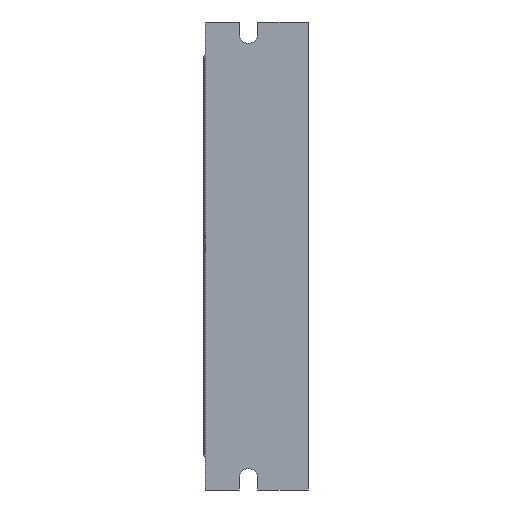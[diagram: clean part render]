
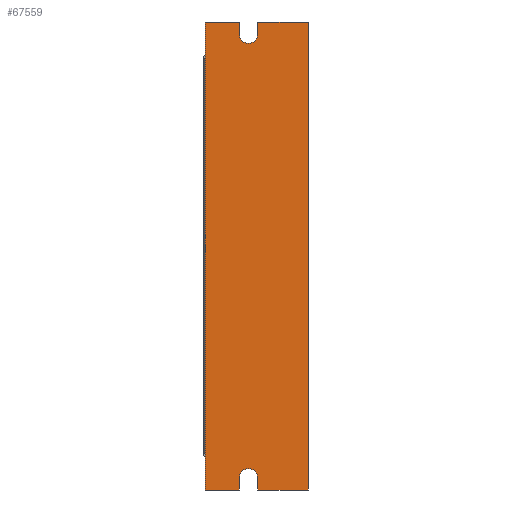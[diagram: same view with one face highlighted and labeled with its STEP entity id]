
A CAD part, left-side view. The second image highlights one B-rep face of the part: STEP entity #67559.
In plain terms, the highlighted planar face has unit normal (-1, 0, 0).
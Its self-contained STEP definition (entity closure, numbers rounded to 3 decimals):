
#552 = EDGE_CURVE ( 'NONE', #102072, #75754, #96332, .T. ) ;
#2598 = LINE ( 'NONE', #38038, #51276 ) ;
#2942 = LINE ( 'NONE', #60996, #54679 ) ;
#5365 = DIRECTION ( 'NONE',  ( 0., 0., 1. ) ) ;
#5782 = CARTESIAN_POINT ( 'NONE',  ( 0., 17., 0. ) ) ;
#5799 = EDGE_CURVE ( 'NONE', #47897, #63221, #89925, .T. ) ;
#5852 = DIRECTION ( 'NONE',  ( 0., 0., -1. ) ) ;
#7980 = EDGE_CURVE ( 'NONE', #23426, #12030, #50017, .T. ) ;
#10335 = EDGE_LOOP ( 'NONE', ( #21268, #115646, #69696, #108118, #11371, #83966, #46160, #44073, #37546, #66220, #97630, #31538, #44299 ) ) ;
#10584 = CARTESIAN_POINT ( 'NONE',  ( 0., 17., -57.5 ) ) ;
#11371 = ORIENTED_EDGE ( 'NONE', *, *, #41722, .T. ) ;
#11429 = VERTEX_POINT ( 'NONE', #35611 ) ;
#11620 = CARTESIAN_POINT ( 'NONE',  ( 0., 25.4, 57.5 ) ) ;
#11754 = AXIS2_PLACEMENT_3D ( 'NONE', #86851, #19199, #87277 ) ;
#12030 = VERTEX_POINT ( 'NONE', #24419 ) ;
#13313 = CARTESIAN_POINT ( 'NONE',  ( 0., 17., -54.5 ) ) ;
#16229 = CARTESIAN_POINT ( 'NONE',  ( 0., 12.5, -57.5 ) ) ;
#19199 = DIRECTION ( 'NONE',  ( 1., 0., 0. ) ) ;
#21004 = VECTOR ( 'NONE', #5365, 1000. ) ;
#21266 = CARTESIAN_POINT ( 'NONE',  ( 0., 12.7, 57.5 ) ) ;
#21268 = ORIENTED_EDGE ( 'NONE', *, *, #552, .F. ) ;
#23426 = VERTEX_POINT ( 'NONE', #76174 ) ;
#24419 = CARTESIAN_POINT ( 'NONE',  ( 0., 12.5, 57.5 ) ) ;
#27631 = CARTESIAN_POINT ( 'NONE',  ( 0., 12.5, 0. ) ) ;
#31538 = ORIENTED_EDGE ( 'NONE', *, *, #102807, .F. ) ;
#34302 = AXIS2_PLACEMENT_3D ( 'NONE', #115428, #57171, #125172 ) ;
#35611 = CARTESIAN_POINT ( 'NONE',  ( 0., 25.4, -57.5 ) ) ;
#35735 = LINE ( 'NONE', #27631, #84463 ) ;
#37546 = ORIENTED_EDGE ( 'NONE', *, *, #5799, .F. ) ;
#38038 = CARTESIAN_POINT ( 'NONE',  ( 0., 0., 0. ) ) ;
#38960 = CARTESIAN_POINT ( 'NONE',  ( 0., 14.75, -54.5 ) ) ;
#40240 = EDGE_CURVE ( 'NONE', #79120, #97003, #2942, .T. ) ;
#41722 = EDGE_CURVE ( 'NONE', #79120, #23426, #2598, .T. ) ;
#42411 = VERTEX_POINT ( 'NONE', #11620 ) ;
#44073 = ORIENTED_EDGE ( 'NONE', *, *, #53250, .F. ) ;
#44299 = ORIENTED_EDGE ( 'NONE', *, *, #82746, .F. ) ;
#46160 = ORIENTED_EDGE ( 'NONE', *, *, #97127, .F. ) ;
#47897 = VERTEX_POINT ( 'NONE', #70575 ) ;
#48001 = DIRECTION ( 'NONE',  ( 0., 0., 1. ) ) ;
#48774 = DIRECTION ( 'NONE',  ( 0., 0., -1. ) ) ;
#50017 = LINE ( 'NONE', #51672, #121557 ) ;
#51276 = VECTOR ( 'NONE', #115907, 1000. ) ;
#51672 = CARTESIAN_POINT ( 'NONE',  ( 0., 6.25, 57.5 ) ) ;
#53250 = EDGE_CURVE ( 'NONE', #63221, #104551, #99394, .T. ) ;
#53848 = CARTESIAN_POINT ( 'NONE',  ( 0., 12.5, 0. ) ) ;
#54249 = DIRECTION ( 'NONE',  ( 0., 0., -1. ) ) ;
#54679 = VECTOR ( 'NONE', #99715, 1000. ) ;
#55011 = CARTESIAN_POINT ( 'NONE',  ( 0., 14.75, 54.5 ) ) ;
#57171 = DIRECTION ( 'NONE',  ( -1., 0., 0. ) ) ;
#60996 = CARTESIAN_POINT ( 'NONE',  ( 0., 6.25, -57.5 ) ) ;
#61722 = VERTEX_POINT ( 'NONE', #119321 ) ;
#63221 = VERTEX_POINT ( 'NONE', #120203 ) ;
#64789 = DIRECTION ( 'NONE',  ( 0., 0., -1. ) ) ;
#65354 = VECTOR ( 'NONE', #48001, 1000. ) ;
#66220 = ORIENTED_EDGE ( 'NONE', *, *, #78492, .F. ) ;
#66671 = LINE ( 'NONE', #5782, #89485 ) ;
#67559 = ADVANCED_FACE ( 'NONE', ( #85344 ), #77513, .F. ) ;
#68450 = LINE ( 'NONE', #106287, #65354 ) ;
#69696 = ORIENTED_EDGE ( 'NONE', *, *, #78472, .F. ) ;
#70359 = VECTOR ( 'NONE', #88207, 1000. ) ;
#70575 = CARTESIAN_POINT ( 'NONE',  ( 0., 17., 54.5 ) ) ;
#75703 = CARTESIAN_POINT ( 'NONE',  ( 0., 12.5, 54.5 ) ) ;
#75754 = VERTEX_POINT ( 'NONE', #10584 ) ;
#76174 = CARTESIAN_POINT ( 'NONE',  ( 0., 0., 57.5 ) ) ;
#76236 = CARTESIAN_POINT ( 'NONE',  ( 0., 17., 0. ) ) ;
#77513 = PLANE ( 'NONE',  #11754 ) ;
#78472 = EDGE_CURVE ( 'NONE', #97003, #61722, #124466, .T. ) ;
#78492 = EDGE_CURVE ( 'NONE', #83218, #47897, #66671, .T. ) ;
#79120 = VERTEX_POINT ( 'NONE', #98824 ) ;
#79317 = AXIS2_PLACEMENT_3D ( 'NONE', #38960, #107045, #48774 ) ;
#82746 = EDGE_CURVE ( 'NONE', #75754, #11429, #122092, .T. ) ;
#83218 = VERTEX_POINT ( 'NONE', #97069 ) ;
#83966 = ORIENTED_EDGE ( 'NONE', *, *, #7980, .T. ) ;
#84463 = VECTOR ( 'NONE', #115285, 1000. ) ;
#85344 = FACE_OUTER_BOUND ( 'NONE', #10335, .T. ) ;
#86851 = CARTESIAN_POINT ( 'NONE',  ( 0., 0., 57.5 ) ) ;
#87277 = DIRECTION ( 'NONE',  ( 0., 0., -1. ) ) ;
#88207 = DIRECTION ( 'NONE',  ( 0., 1., 0. ) ) ;
#89485 = VECTOR ( 'NONE', #54249, 1000. ) ;
#89769 = EDGE_CURVE ( 'NONE', #42411, #83218, #123331, .T. ) ;
#89925 = CIRCLE ( 'NONE', #116804, 2.25 ) ;
#90792 = DIRECTION ( 'NONE',  ( 0., 1., 0. ) ) ;
#91408 = VECTOR ( 'NONE', #108466, 1000. ) ;
#96332 = LINE ( 'NONE', #76236, #116084 ) ;
#97003 = VERTEX_POINT ( 'NONE', #16229 ) ;
#97069 = CARTESIAN_POINT ( 'NONE',  ( 0., 17., 57.5 ) ) ;
#97127 = EDGE_CURVE ( 'NONE', #104551, #12030, #35735, .T. ) ;
#97630 = ORIENTED_EDGE ( 'NONE', *, *, #89769, .F. ) ;
#97859 = EDGE_CURVE ( 'NONE', #61722, #102072, #112055, .T. ) ;
#98824 = CARTESIAN_POINT ( 'NONE',  ( 0., 0., -57.5 ) ) ;
#99394 = CIRCLE ( 'NONE', #34302, 2.25 ) ;
#99715 = DIRECTION ( 'NONE',  ( 0., 1., 0. ) ) ;
#102072 = VERTEX_POINT ( 'NONE', #13313 ) ;
#102807 = EDGE_CURVE ( 'NONE', #11429, #42411, #68450, .T. ) ;
#104551 = VERTEX_POINT ( 'NONE', #75703 ) ;
#106287 = CARTESIAN_POINT ( 'NONE',  ( 0., 25.4, 0. ) ) ;
#106498 = CARTESIAN_POINT ( 'NONE',  ( 0., 12.7, -57.5 ) ) ;
#107045 = DIRECTION ( 'NONE',  ( -1., 0., 0. ) ) ;
#108118 = ORIENTED_EDGE ( 'NONE', *, *, #40240, .F. ) ;
#108466 = DIRECTION ( 'NONE',  ( 0., -1., 0. ) ) ;
#112055 = CIRCLE ( 'NONE', #79317, 2.25 ) ;
#115285 = DIRECTION ( 'NONE',  ( 0., 0., 1. ) ) ;
#115428 = CARTESIAN_POINT ( 'NONE',  ( 0., 14.75, 54.5 ) ) ;
#115646 = ORIENTED_EDGE ( 'NONE', *, *, #97859, .F. ) ;
#115907 = DIRECTION ( 'NONE',  ( 0., 0., 1. ) ) ;
#116084 = VECTOR ( 'NONE', #5852, 1000. ) ;
#116804 = AXIS2_PLACEMENT_3D ( 'NONE', #55011, #123013, #64789 ) ;
#119321 = CARTESIAN_POINT ( 'NONE',  ( 0., 12.5, -54.5 ) ) ;
#120203 = CARTESIAN_POINT ( 'NONE',  ( 0., 14.75, 52.25 ) ) ;
#121557 = VECTOR ( 'NONE', #90792, 1000. ) ;
#122092 = LINE ( 'NONE', #106498, #70359 ) ;
#123013 = DIRECTION ( 'NONE',  ( -1., 0., 0. ) ) ;
#123331 = LINE ( 'NONE', #21266, #91408 ) ;
#124466 = LINE ( 'NONE', #53848, #21004 ) ;
#125172 = DIRECTION ( 'NONE',  ( 0., 0., -1. ) ) ;
